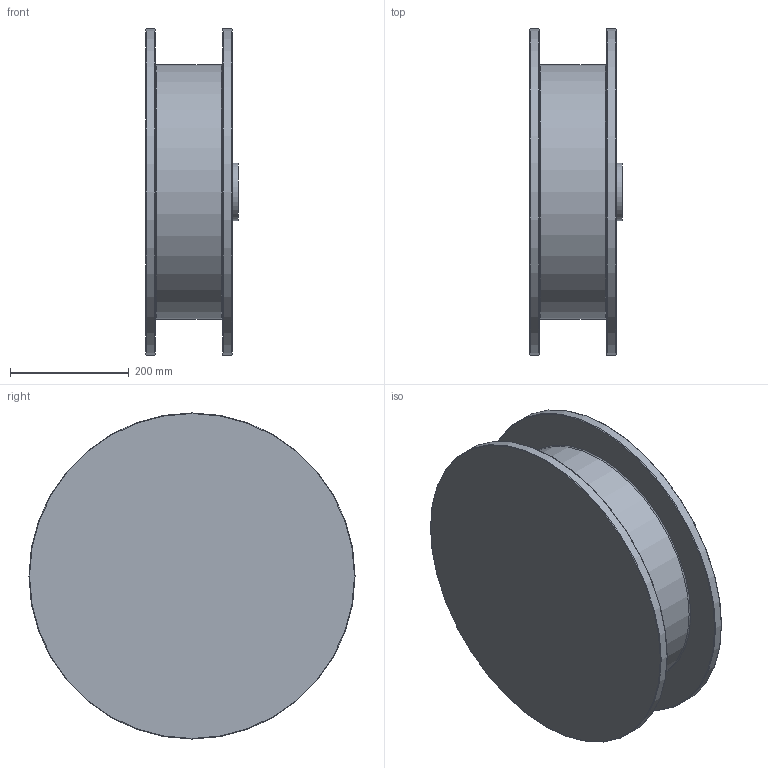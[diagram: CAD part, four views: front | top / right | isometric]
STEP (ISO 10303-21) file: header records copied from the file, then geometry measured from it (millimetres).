
FILE_DESCRIPTION((''),'2;1');
FILE_NAME('D:\PAWEŁ\ZLECENIA\2011 DualSystem\Przekładnie DR\DR160\STEP\280_B5_L145,5.stp','2012-06-11T13:02:58',('admin'),(''),'Autodesk Inventor 2009','Autodesk Inventor 2009','');
FILE_SCHEMA(('AUTOMOTIVE_DESIGN { 1 0 10303 214 1 1 1 1 }'));
Length unit declared in the file: millimetre
Products named in the file (1): 280_B5_L145,5
Bounding box: 156 x 550 x 550 mm (x, y, z)
Volume: 6829022.5 mm3; surface area: 1111339.4 mm2
Topology: 1 solids, 1 shells, 41 faces, 68 edges, 43 vertices
Faces by surface type: bspline 18, plane 11, cylinder 7, torus 5
Full cylindrical faces by diameter (mm): 97 x1, 418 x1, 430 x2, 550 x2
Entity records: 1093 total; most frequent: CARTESIAN_POINT 380, DIRECTION 132, ORIENTED_EDGE 94, EDGE_LOOP 76, AXIS2_PLACEMENT_3D 61, EDGE_CURVE 47, VERTEX_POINT 43, FACE_OUTER_BOUND 41
